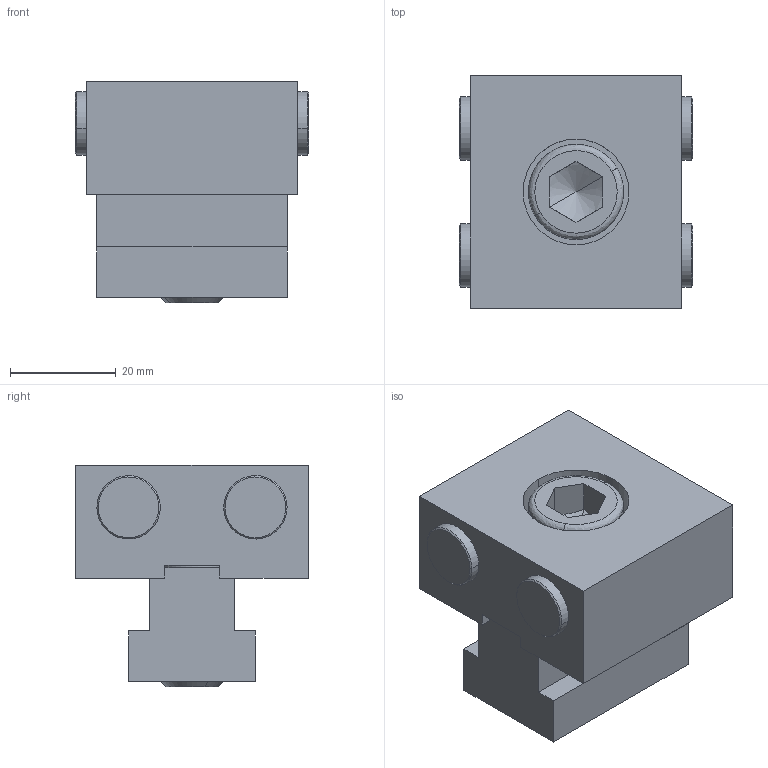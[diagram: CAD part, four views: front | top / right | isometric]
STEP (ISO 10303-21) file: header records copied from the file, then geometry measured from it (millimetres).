
FILE_DESCRIPTION (( 'STEP AP203' ), '1' );
FILE_NAME ('mr-s-d.STEP', '2021-10-26T02:18:01', ( '' ), ( '' ), 'SwSTEP 2.0', 'SolidWorks 2020', '' );
FILE_SCHEMA (( 'CONFIG_CONTROL_DESIGN' ));
Length unit declared in the file: millimetre
Products named in the file (1): mr-s-d
Bounding box: 44.2 x 44 x 42 mm (x, y, z)
Volume: 51099 mm3; surface area: 12650.6 mm2
Topology: 1 solids, 1 shells, 71 faces, 182 edges, 117 vertices
Faces by surface type: plane 41, cylinder 16, cone 12, bspline 2
Entity records: 2279 total; most frequent: CARTESIAN_POINT 459, ORIENTED_EDGE 360, DIRECTION 360, EDGE_CURVE 180, VECTOR 124, LINE 124, AXIS2_PLACEMENT_3D 118, VERTEX_POINT 117
